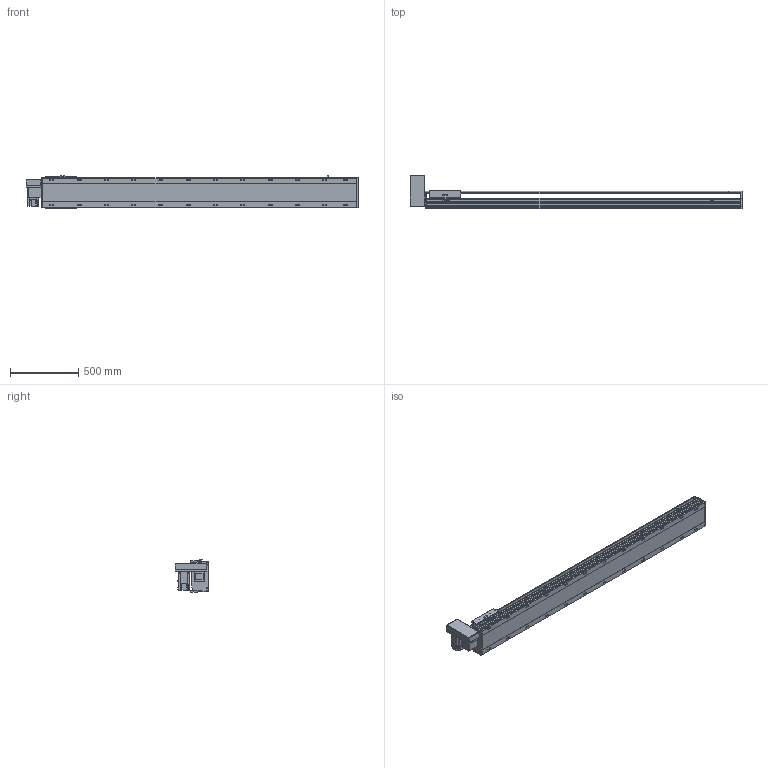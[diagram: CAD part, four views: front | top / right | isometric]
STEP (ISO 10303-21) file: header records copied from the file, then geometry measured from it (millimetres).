
FILE_DESCRIPTION(/* description */ ('STEP AP214'),/* implementation_level */ '2;1');
FILE_NAME(/* name */ 'PBS220-P40-S1950-RU-T75-C1-N(0)',/* time_stamp */ '2022-06-13T02:57:01+02:00',/* author */ ('License CC BY-ND 4.0'),/* organization */ ('CADENAS'),/* preprocessor_version */ 'ST-DEVELOPER v18.102',/* originating_system */ 'PARTsolutions',/* authorisation */ ' ');
FILE_SCHEMA (('AUTOMOTIVE_DESIGN {1 0 10303 214 3 1 1}'));
Length unit declared in the file: millimetre
Products named in the file (7): PBS220-P40-S1950-RU-T75-C1-N(0); PBS220_sensor; PBS220_plant; PBS220_sliser; T75-p1; PBS220T-RU_motors; PBS220-S1950()_body
Assembly tree (8 placements, depth 2):
  PBS220-P40-S1950-RU-T75-C1-N(0)
    PBS220_sensor  x3
    PBS220_plant
    PBS220_sliser
    T75-p1
    PBS220T-RU_motors
    PBS220-S1950()_body
Bounding box: 2434 x 247 x 238.5 mm (x, y, z)
Volume: 34252522.7 mm3; surface area: 3188715 mm2
Topology: 8 solids, 8 shells, 962 faces, 2508 edges, 1630 vertices
Faces by surface type: plane 614, cylinder 300, cone 48
Full cylindrical faces by diameter (mm): 2.013 x4, 4.5 x14, 4.917 x4, 6 x7, 6.647 x8, 8 x10, 8.376 x24, 8.5 x24, 10 x6, 14 x24, 38 x2, 40 x1, 70 x1
Entity records: 26877 total; most frequent: CARTESIAN_POINT 4756, DIRECTION 4671, ORIENTED_EDGE 4250, EDGE_CURVE 2125, AXIS2_PLACEMENT_3D 1659, VERTEX_POINT 1480, LINE 1353, VECTOR 1353
